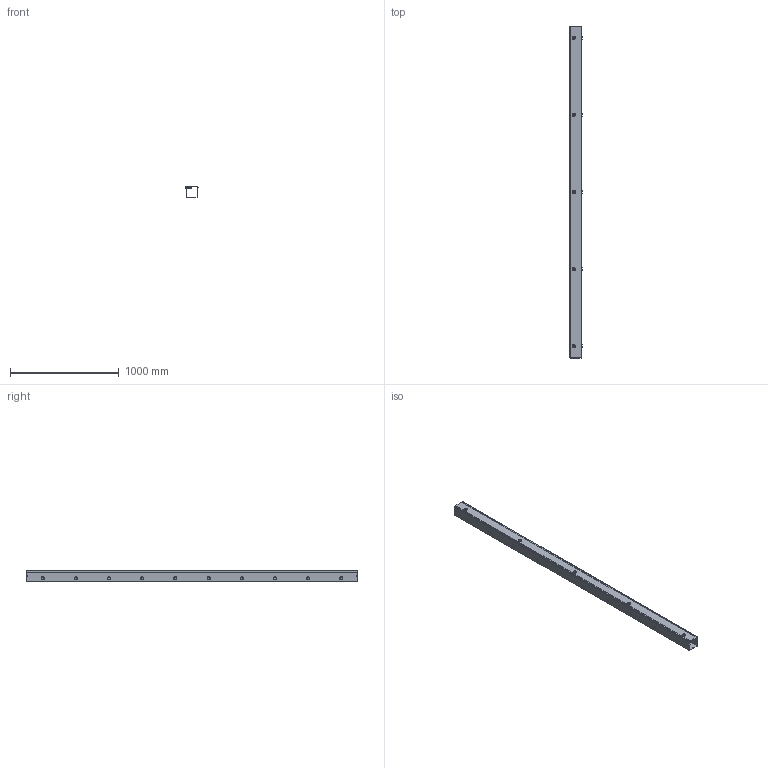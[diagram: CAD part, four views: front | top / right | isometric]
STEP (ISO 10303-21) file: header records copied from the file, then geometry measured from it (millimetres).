
FILE_DESCRIPTION(/* description */ ('1100SS 120" x 4" x 4" Assembly'),/* implementation_level */ '2;1');
FILE_NAME(/* name */ '1100SS4120.stp',/* time_stamp */ '2024-08-06T23:27:18-04:00',/* author */ ('BoxCad'),/* organization */ (''),/* preprocessor_version */ 'ST-DEVELOPER v20',/* originating_system */ 'Autodesk Inventor 2024',/* authorisation */ '');
FILE_SCHEMA (('AUTOMOTIVE_DESIGN { 1 0 10303 214 3 1 1 }'));
Products named in the file (14): 1100SS4120; 1100SS4120B; 1100SS4120B-P; 1100SS4120C; 1100SS4120C-P; STK-P-02400S; STK-Q-33361; STK-A-880SCQ1-SL-1; STK-A-880SCQ1-SL-2; STK-A-880SCQ1-SL-3; STK-A-880SCQ1-SL-4; STK-A-880SCQ1-SL-5; STK-Q-78631; STK-Q-78644
Assembly tree (26 placements, depth 4):
  1100SS4120
    1100SS4120B
      1100SS4120B-P
      STK-P-02400S
    1100SS4120C
      1100SS4120C-P
      STK-P-02400S
      STK-Q-33361  x5
      STK-A-880SCQ1-SL-1
        STK-Q-78631
        STK-Q-78644
      STK-A-880SCQ1-SL-2
        STK-Q-78631
        STK-Q-78644
      STK-A-880SCQ1-SL-3
        STK-Q-78631
        STK-Q-78644
      STK-A-880SCQ1-SL-4
        STK-Q-78631
        STK-Q-78644
      STK-A-880SCQ1-SL-5
        STK-Q-78631
        STK-Q-78644
Bounding box: 111.91 x 3048 x 107.6 mm (x, y, z)
Volume: 1958997.1 mm3; surface area: 2816427.4 mm2
Topology: 17 solids, 17 shells, 8484 faces, 21733 edges, 13143 vertices
Faces by surface type: plane 3215, cylinder 2279, bspline 2065, torus 530, sphere 395
Full cylindrical faces by diameter (mm): 0.762 x5, 7.137 x14, 30 x5
Entity records: 73948 total; most frequent: CARTESIAN_POINT 20659, ORIENTED_EDGE 11452, DIRECTION 10215, EDGE_CURVE 5726, VERTEX_POINT 3587, AXIS2_PLACEMENT_3D 3419, LINE 3377, VECTOR 3377
